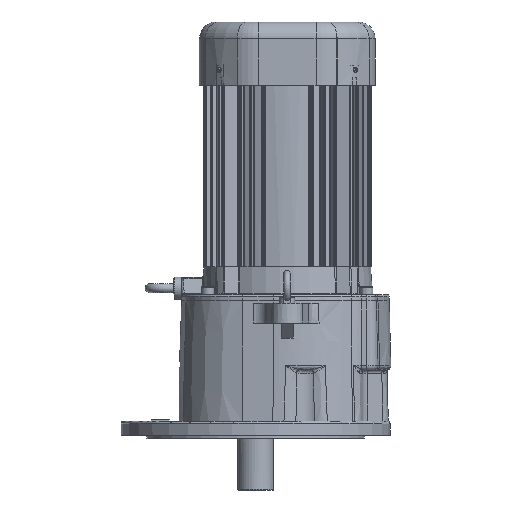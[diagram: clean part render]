
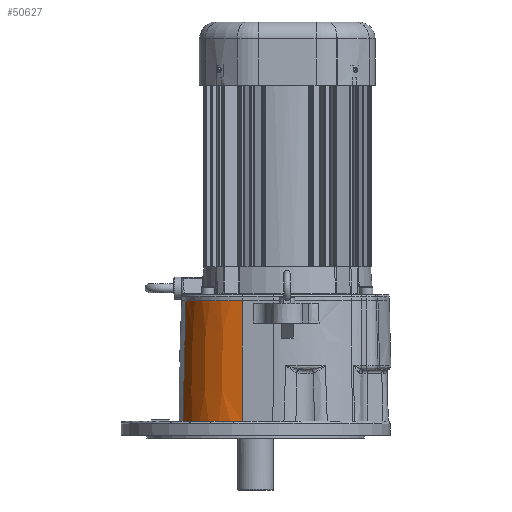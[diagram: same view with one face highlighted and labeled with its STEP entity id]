
A CAD part, left-side view. The second image highlights one B-rep face of the part: STEP entity #50627.
In plain terms, the highlighted conical face has half-angle 1.488 degrees and reference radius 89 mm.
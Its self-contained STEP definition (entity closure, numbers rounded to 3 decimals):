
#205=CONICAL_SURFACE('',#54967,89.,0.026);
#3156=LINE('',#86512,#5921);
#3566=LINE('',#89711,#6331);
#5921=VECTOR('',#63717,10.);
#6331=VECTOR('',#64743,10.);
#9618=FACE_OUTER_BOUND('',#12731,.T.);
#12731=EDGE_LOOP('',(#38427,#38428,#38429,#38430));
#15839=CIRCLE('',#54946,89.);
#15855=CIRCLE('',#54968,85.052);
#21121=VERTEX_POINT('',#86508);
#21122=VERTEX_POINT('',#86510);
#21523=VERTEX_POINT('',#89668);
#21539=VERTEX_POINT('',#89709);
#26878=EDGE_CURVE('',#21121,#21122,#3156,.T.);
#27485=EDGE_CURVE('',#21523,#21122,#15839,.T.);
#27503=EDGE_CURVE('',#21539,#21121,#15855,.T.);
#27504=EDGE_CURVE('',#21523,#21539,#3566,.T.);
#38427=ORIENTED_EDGE('',*,*,#27503,.T.);
#38428=ORIENTED_EDGE('',*,*,#26878,.T.);
#38429=ORIENTED_EDGE('',*,*,#27485,.F.);
#38430=ORIENTED_EDGE('',*,*,#27504,.T.);
#50627=ADVANCED_FACE('',(#9618),#205,.T.);
#54946=AXIS2_PLACEMENT_3D('',#89670,#64695,#64696);
#54967=AXIS2_PLACEMENT_3D('',#89708,#64739,#64740);
#54968=AXIS2_PLACEMENT_3D('',#89710,#64741,#64742);
#63717=DIRECTION('',(-0.006,0.025,-1.));
#64695=DIRECTION('center_axis',(0.,0.,-1.));
#64696=DIRECTION('ref_axis',(-0.215,0.977,0.));
#64739=DIRECTION('center_axis',(0.,0.,-1.));
#64740=DIRECTION('ref_axis',(-0.215,0.977,0.));
#64741=DIRECTION('center_axis',(0.,0.,-1.));
#64742=DIRECTION('ref_axis',(-0.215,0.977,0.));
#64743=DIRECTION('',(0.026,-0.004,1.));
#86508=CARTESIAN_POINT('',(-69.706,89.799,95.5));
#86510=CARTESIAN_POINT('',(-70.555,93.654,-56.5));
#86512=CARTESIAN_POINT('',(-69.695,89.748,97.5));
#89668=CARTESIAN_POINT('',(-139.597,18.815,-56.5));
#89670=CARTESIAN_POINT('Origin',(-51.421,6.735,-56.5));
#89708=CARTESIAN_POINT('Origin',(-51.421,6.735,-56.5));
#89709=CARTESIAN_POINT('',(-135.686,18.279,95.5));
#89710=CARTESIAN_POINT('Origin',(-51.421,6.735,95.5));
#89711=CARTESIAN_POINT('',(-139.597,18.815,-56.5));
